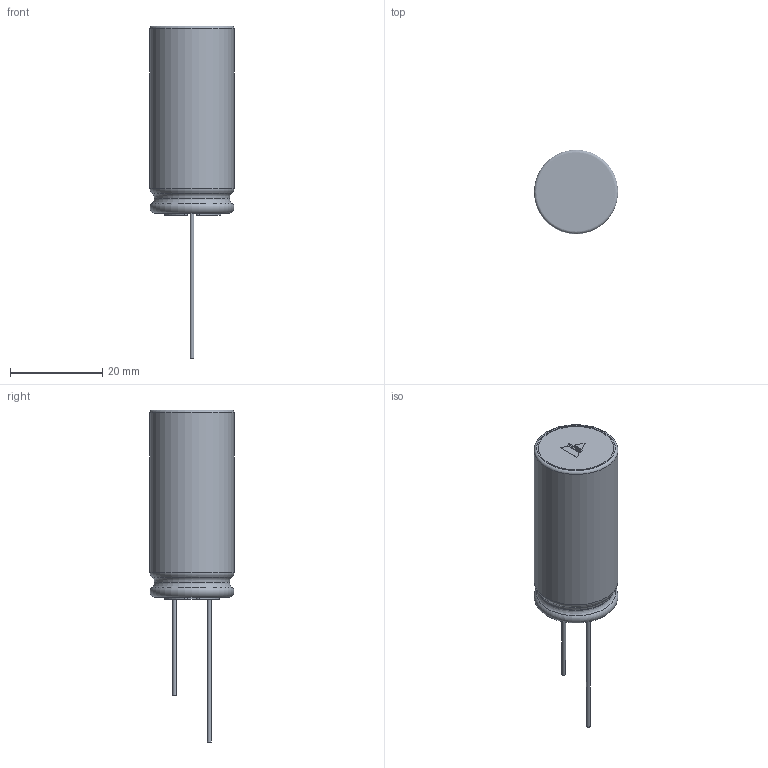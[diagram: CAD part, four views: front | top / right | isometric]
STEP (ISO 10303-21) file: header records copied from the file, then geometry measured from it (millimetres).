
FILE_DESCRIPTION(/* description */ ('','CAx-IF Rec.Pracs.---Representation and Presentation of Product Manufacturing Information (PMI)---4.0---2014-10-13'),/* implementation_level */ '2;1');
FILE_NAME(/* name */ 'R:\Operations\Technical Mgt\TECHN_SUPPORT\ZEICHNUNGEN\Inventor\Vishay Bcc\Produkte\Produkte\STEP\EDLC_DM1840_PG.stp',/* time_stamp */ '2018-04-19T13:47:16+02:00',/* author */ ('fsuppanz'),/* organization */ (''),/* preprocessor_version */ 'ST-DEVELOPER v16.13',/* originating_system */ 'Autodesk Inventor 2018',/* authorisation */ '');
FILE_SCHEMA (('AP242_MANAGED_MODEL_BASED_3D_ENGINEERING_MIM_LF { 1 0 10303 442 1 1 4 }'));
Length unit declared in the file: millimetre
Products named in the file (11): EDLC_DM1840_PG; 14641_Anode; 14651_Kathode; Dm18_Anode_32mm; Dm18_Kathode_32mm; Dm18_Papier1_34mm; Dm18_Papier2_34mm; Becher 1840; Gummi_Profil_18; Profilgummi DM18; Ausdehnung DM18
Assembly tree (10 placements, depth 3):
  EDLC_DM1840_PG
    14641_Anode
    14651_Kathode
    Dm18_Anode_32mm
    Dm18_Kathode_32mm
    Dm18_Papier1_34mm
    Dm18_Papier2_34mm
    Becher 1840
    Gummi_Profil_18
      Profilgummi DM18
      Ausdehnung DM18
Bounding box: 18.2 x 18.2 x 71.9 mm (x, y, z)
Volume: 8480.1 mm3; surface area: 206522.2 mm2
Topology: 9 solids, 9 shells, 228 faces, 551 edges, 361 vertices
Faces by surface type: plane 148, cylinder 33, bspline 31, torus 14, cone 2
Full cylindrical faces by diameter (mm): 0.8 x2, 1.8 x4, 2 x2, 14.3 x1, 14.7 x1, 15.5 x2, 16.3 x1, 16.4 x1, 17.4 x3, 18.2 x1
Entity records: 25337 total; most frequent: CARTESIAN_POINT 18816, DIRECTION 1278, ORIENTED_EDGE 1026, EDGE_CURVE 513, AXIS2_PLACEMENT_3D 491, LINE 368, VECTOR 368, VERTEX_POINT 357
